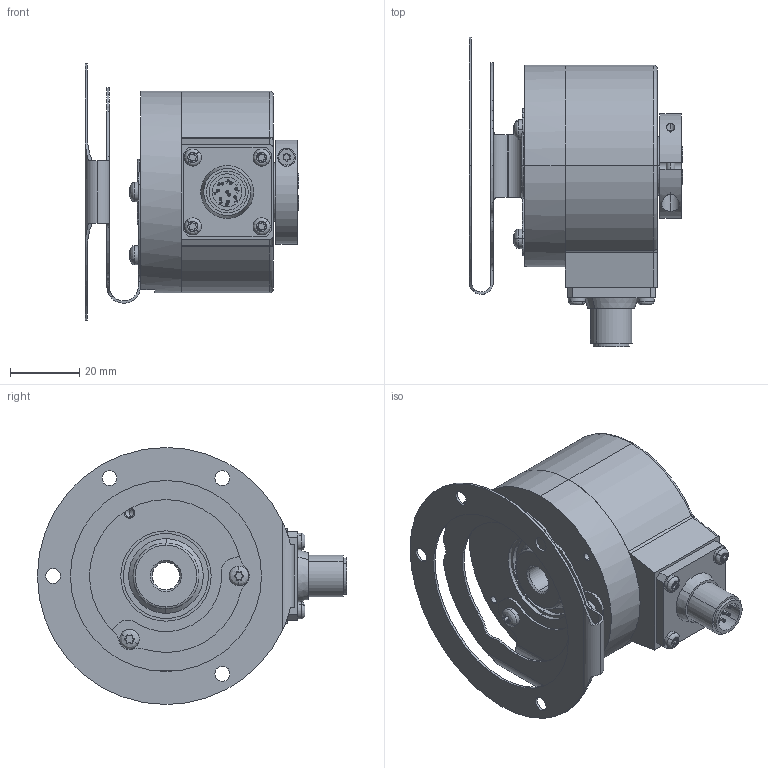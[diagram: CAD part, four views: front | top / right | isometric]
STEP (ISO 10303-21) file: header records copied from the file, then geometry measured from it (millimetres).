
FILE_DESCRIPTION (( 'STEP AP203' ), '1' );
FILE_NAME ('K58I.OXX.XXXXX.XC13508.6XRC2.step', '2025-12-08T11:34:51', ( '' ), ( '' ), 'SwSTEP 2.0', 'SolidWorks 2021', '' );
FILE_SCHEMA (( 'CONFIG_CONTROL_DESIGN' ));
Length unit declared in the file: millimetre
Products named in the file (1): K58I.OXX.XXXXX.XC13508.6XRC2
Bounding box: 61.59 x 89 x 74 mm (x, y, z)
Volume: 113758.7 mm3; surface area: 39769.2 mm2
Topology: 7 solids, 7 shells, 592 faces, 1568 edges, 1013 vertices
Faces by surface type: cylinder 301, plane 154, bspline 74, cone 40, sphere 16, torus 7
Entity records: 23132 total; most frequent: CARTESIAN_POINT 8682, ORIENTED_EDGE 3044, DIRECTION 2955, EDGE_CURVE 1522, AXIS2_PLACEMENT_3D 1138, VERTEX_POINT 997, VECTOR 679, LINE 679
